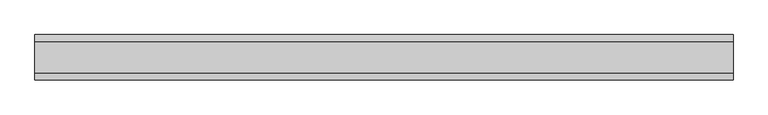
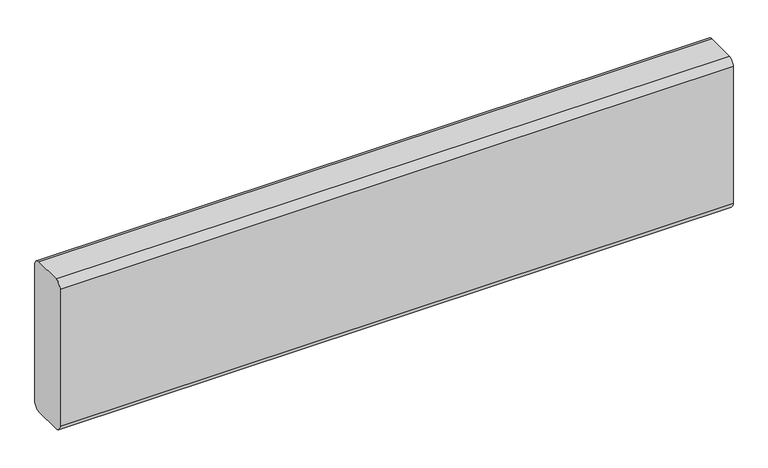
"""IFC4 building model written with IfcOpenShell, lengths in millimetres: proxy geometry, GROUTED CMU CELLS_horizontal : GROUTED CMU CELLS_horizontal."""

from ifc_helpers import new_model, si_unit, point, frame, frame_2d, origin, place, context, project, spatial, polyline, circle_curve, trimmed, segment, composite_curve, outline, extrude, source, transform, mapped, element, save


def generic_models_982b0e00(model_context):
    return source(origin(), model_context, "Body", "SweptSolid", [
        extrude(outline(composite_curve([segment(trimmed(circle_curve(frame_2d((34.925, -168.275)), 15.875), [point((50.8, -168.275))], [point((34.925, -184.15))], False, "CARTESIAN"), True, "CONTINUOUS"), segment(polyline([(34.925, -184.15), (-34.925, -184.15)]), True, "CONTINUOUS"), segment(trimmed(circle_curve(frame_2d((-34.925, -168.275)), 15.875), [point((-34.925, -184.15))], [point((-50.8, -168.275))], False, "CARTESIAN"), True, "CONTINUOUS"), segment(polyline([(-50.8, -168.275), (-50.8, 168.275)]), True, "CONTINUOUS"), segment(trimmed(circle_curve(frame_2d((-34.925, 168.275)), 15.875), [point((-50.8, 168.275))], [point((-34.925, 184.15))], False, "CARTESIAN"), True, "CONTINUOUS"), segment(polyline([(-34.925, 184.15), (34.925, 184.15)]), True, "CONTINUOUS"), segment(trimmed(circle_curve(frame_2d((34.925, 168.275)), 15.875), [point((34.925, 184.15))], [point((50.8, 168.275))], False, "CARTESIAN"), True, "CONTINUOUS"), segment(polyline([(50.8, 168.275), (50.8, -168.275)]), True, "CONTINUOUS")], self_intersect=False)), frame((0.0, 0.0, 0.0), z_axis=(1.0, 0.0, 0.0), x_axis=(0.0, 1.0, 0.0)), (0.0, 0.0, 1.0), 1563.8911348),
    ])


if __name__ == "__main__":
    model = new_model("IFC4")
    model_context = context("Model", 3, world=origin())
    ifc_project = project(units=[si_unit("LENGTHUNIT", "METRE", prefix="MILLI")], contexts=[model_context])
    site = spatial("IfcSite", under=ifc_project)
    building = spatial("IfcBuilding", under=site)
    placement = place(None, origin())
    generic_models_shape = generic_models_982b0e00(model_context)
    element("IfcBuildingElementProxy", 1, Name="GROUTED CMU CELLS_horizontal : GROUTED CMU CELLS_horizontal", ObjectType="GROUTED CMU CELLS_horizontal : GROUTED CMU CELLS_horizontal", at=placement, inside=building, context=model_context, shape_type="MappedRepresentation", body=[
        mapped(generic_models_shape, transform((0.0, 0.0, 0.0), x_axis=(1.0, 0.0, 0.0), y_axis=(0.0, 1.0, 0.0), z_axis=(0.0, 0.0, 1.0))),
    ])
    save(model, "model.ifc")
